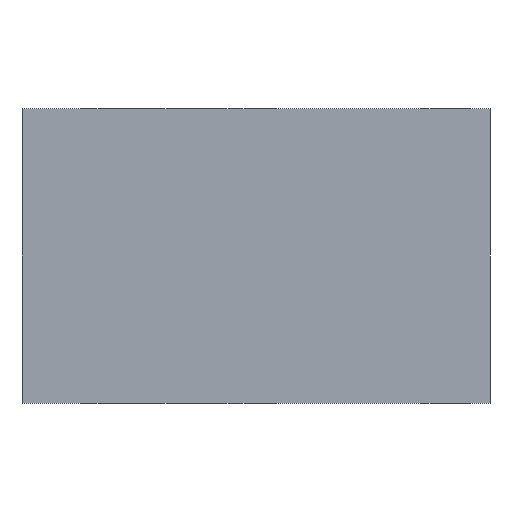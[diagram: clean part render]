
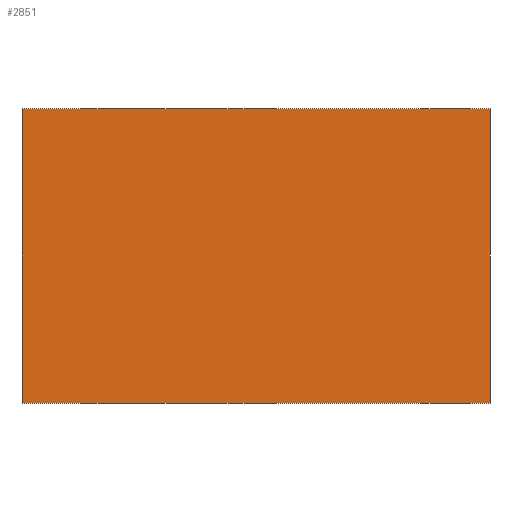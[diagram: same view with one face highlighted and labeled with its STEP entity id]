
A CAD part, left-side view. The second image highlights one B-rep face of the part: STEP entity #2851.
In plain terms, the highlighted planar face has unit normal (-1, 0, 0).
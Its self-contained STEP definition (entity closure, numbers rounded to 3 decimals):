
#42 = LINE ( 'NONE', #716, #505 ) ;
#82 = CARTESIAN_POINT ( 'NONE',  ( -25.4, -25.4, -16. ) ) ;
#102 = ORIENTED_EDGE ( 'NONE', *, *, #609, .T. ) ;
#192 = CARTESIAN_POINT ( 'NONE',  ( -25.4, 25.4, 16. ) ) ;
#375 = CARTESIAN_POINT ( 'NONE',  ( -25.4, -25.4, 16. ) ) ;
#505 = VECTOR ( 'NONE', #2248, 1000. ) ;
#539 = DIRECTION ( 'NONE',  ( 0., -1., 0. ) ) ;
#573 = VERTEX_POINT ( 'NONE', #1669 ) ;
#578 = DIRECTION ( 'NONE',  ( 0., 0., -1. ) ) ;
#609 = EDGE_CURVE ( 'NONE', #573, #1953, #1975, .T. ) ;
#628 = FACE_OUTER_BOUND ( 'NONE', #2249, .T. ) ;
#716 = CARTESIAN_POINT ( 'NONE',  ( -25.4, 25.4, 16. ) ) ;
#745 = ORIENTED_EDGE ( 'NONE', *, *, #2417, .F. ) ;
#821 = LINE ( 'NONE', #1805, #2002 ) ;
#1017 = VECTOR ( 'NONE', #1531, 1000. ) ;
#1079 = CARTESIAN_POINT ( 'NONE',  ( -25.4, 25.4, 16. ) ) ;
#1162 = DIRECTION ( 'NONE',  ( 1., 0., 0. ) ) ;
#1346 = VERTEX_POINT ( 'NONE', #1079 ) ;
#1356 = VERTEX_POINT ( 'NONE', #2073 ) ;
#1487 = CARTESIAN_POINT ( 'NONE',  ( -25.4, 25.4, -16. ) ) ;
#1531 = DIRECTION ( 'NONE',  ( 0., 0., -1. ) ) ;
#1669 = CARTESIAN_POINT ( 'NONE',  ( -25.4, 25.4, -16. ) ) ;
#1805 = CARTESIAN_POINT ( 'NONE',  ( -25.4, 25.4, 16. ) ) ;
#1905 = ORIENTED_EDGE ( 'NONE', *, *, #2643, .F. ) ;
#1910 = DIRECTION ( 'NONE',  ( 0., 1., 0. ) ) ;
#1953 = VERTEX_POINT ( 'NONE', #82 ) ;
#1975 = LINE ( 'NONE', #1487, #2963 ) ;
#2002 = VECTOR ( 'NONE', #578, 1000. ) ;
#2073 = CARTESIAN_POINT ( 'NONE',  ( -25.4, -25.4, 16. ) ) ;
#2248 = DIRECTION ( 'NONE',  ( 0., -1., 0. ) ) ;
#2249 = EDGE_LOOP ( 'NONE', ( #102, #1905, #745, #2909 ) ) ;
#2331 = LINE ( 'NONE', #375, #1017 ) ;
#2400 = PLANE ( 'NONE',  #2735 ) ;
#2417 = EDGE_CURVE ( 'NONE', #1346, #1356, #42, .T. ) ;
#2643 = EDGE_CURVE ( 'NONE', #1356, #1953, #2331, .T. ) ;
#2700 = EDGE_CURVE ( 'NONE', #1346, #573, #821, .T. ) ;
#2735 = AXIS2_PLACEMENT_3D ( 'NONE', #192, #1162, #1910 ) ;
#2851 = ADVANCED_FACE ( 'NONE', ( #628 ), #2400, .F. ) ;
#2909 = ORIENTED_EDGE ( 'NONE', *, *, #2700, .T. ) ;
#2963 = VECTOR ( 'NONE', #539, 1000. ) ;
